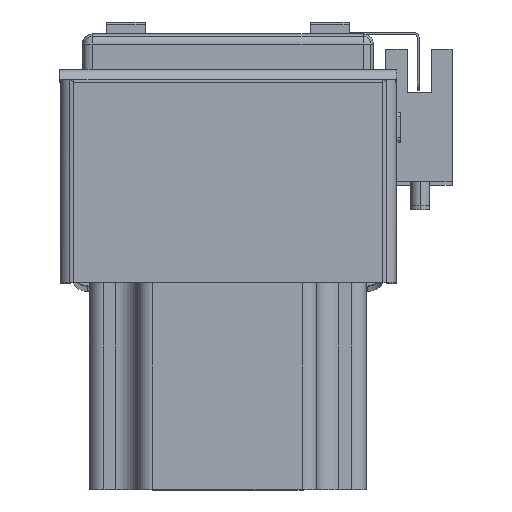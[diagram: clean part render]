
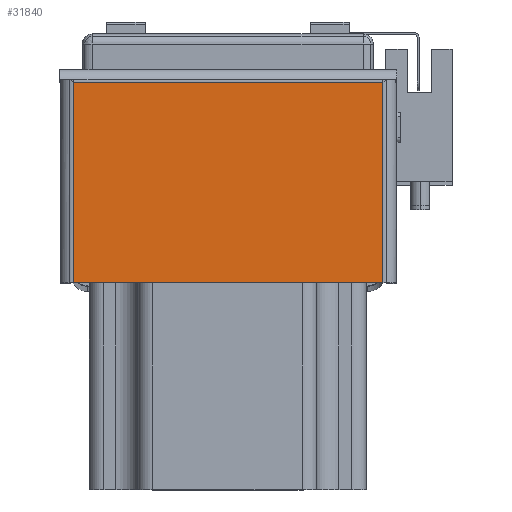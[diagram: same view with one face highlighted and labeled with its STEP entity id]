
A CAD part, top view. The second image highlights one B-rep face of the part: STEP entity #31840.
In plain terms, the highlighted planar face has unit normal (0, 0, 1) as drawn and (1, 0, 0) by its records, which use the part's own axes.
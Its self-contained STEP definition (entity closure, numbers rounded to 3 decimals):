
#1822 = VERTEX_POINT ( 'NONE', #16219 ) ;
#1831 = VERTEX_POINT ( 'NONE', #16239 ) ;
#1843 = VERTEX_POINT ( 'NONE', #16201 ) ;
#1869 = VERTEX_POINT ( 'NONE', #16209 ) ;
#6150 = LINE ( 'NONE', #9599, #6225 ) ;
#6225 = VECTOR ( 'NONE', #9557, 1000. ) ;
#6479 = LINE ( 'NONE', #9523, #6480 ) ;
#6480 = VECTOR ( 'NONE', #9525, 1000. ) ;
#6498 = LINE ( 'NONE', #9419, #6507 ) ;
#6507 = VECTOR ( 'NONE', #9513, 1000. ) ;
#8017 = ORIENTED_EDGE ( 'NONE', *, *, #17330, .F. ) ;
#8054 = ORIENTED_EDGE ( 'NONE', *, *, #17340, .T. ) ;
#8058 = ORIENTED_EDGE ( 'NONE', *, *, #17345, .T. ) ;
#8091 = AXIS2_PLACEMENT_3D ( 'NONE', #20852, #20868, #20830 ) ;
#8107 = ORIENTED_EDGE ( 'NONE', *, *, #17366, .T. ) ;
#9419 = CARTESIAN_POINT ( 'NONE',  ( 2., 42., -31.863 ) ) ;
#9513 = DIRECTION ( 'NONE',  ( 0., -1., 0. ) ) ;
#9523 = CARTESIAN_POINT ( 'NONE',  ( 2., 42., 31.863 ) ) ;
#9525 = DIRECTION ( 'NONE',  ( 0., -1., 0. ) ) ;
#9557 = DIRECTION ( 'NONE',  ( 0., 0., 1. ) ) ;
#9599 = CARTESIAN_POINT ( 'NONE',  ( 2., 41.263, -31.863 ) ) ;
#9673 = DIRECTION ( 'NONE',  ( 0., 0., -1. ) ) ;
#9693 = CARTESIAN_POINT ( 'NONE',  ( 2., 0., -32.6 ) ) ;
#10744 = LINE ( 'NONE', #9693, #10748 ) ;
#10748 = VECTOR ( 'NONE', #9673, 1000. ) ;
#16201 = CARTESIAN_POINT ( 'NONE',  ( 2., 0., 31.863 ) ) ;
#16209 = CARTESIAN_POINT ( 'NONE',  ( 2., 0., -31.863 ) ) ;
#16219 = CARTESIAN_POINT ( 'NONE',  ( 2., 41.263, -31.863 ) ) ;
#16239 = CARTESIAN_POINT ( 'NONE',  ( 2., 41.263, 31.863 ) ) ;
#17330 = EDGE_CURVE ( 'NONE', #1822, #1869, #6498, .T. ) ;
#17340 = EDGE_CURVE ( 'NONE', #1831, #1843, #6479, .T. ) ;
#17345 = EDGE_CURVE ( 'NONE', #1822, #1831, #6150, .T. ) ;
#17366 = EDGE_CURVE ( 'NONE', #1843, #1869, #10744, .T. ) ;
#20726 = EDGE_LOOP ( 'NONE', ( #8058, #8054, #8107, #8017 ) ) ;
#20795 = PLANE ( 'NONE',  #8091 ) ;
#20830 = DIRECTION ( 'NONE',  ( 0., 0., 1. ) ) ;
#20852 = CARTESIAN_POINT ( 'NONE',  ( 2., 42., -32.6 ) ) ;
#20868 = DIRECTION ( 'NONE',  ( -1., 0., 0. ) ) ;
#30200 = FACE_OUTER_BOUND ( 'NONE', #20726, .T. ) ;
#31840 = ADVANCED_FACE ( 'NONE', ( #30200 ), #20795, .F. ) ;
